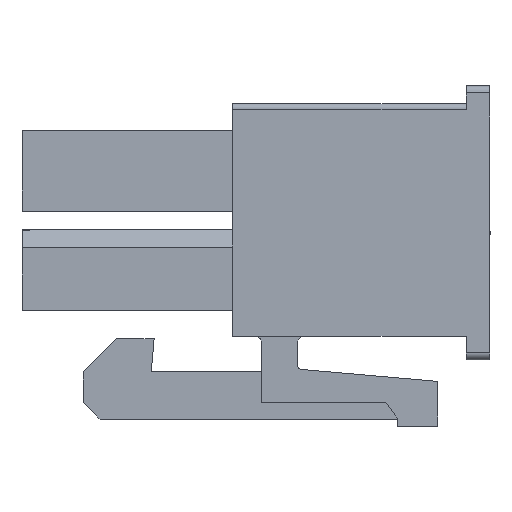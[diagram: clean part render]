
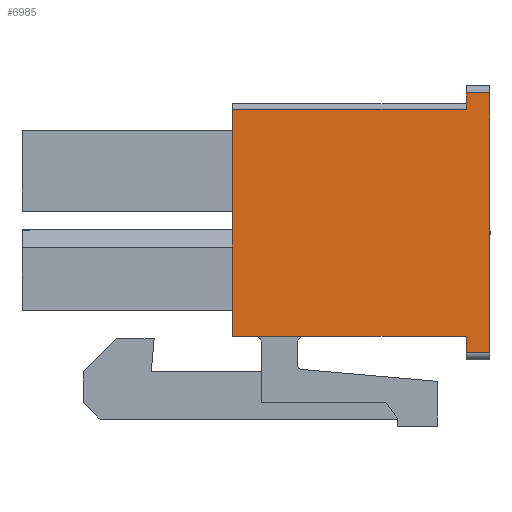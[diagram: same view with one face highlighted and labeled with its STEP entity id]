
A CAD part, left-side view. The second image highlights one B-rep face of the part: STEP entity #6985.
In plain terms, the highlighted planar face has unit normal (-1, 0, 0).
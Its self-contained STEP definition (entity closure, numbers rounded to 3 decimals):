
#104 = CARTESIAN_POINT ( 'NONE',  ( -4.9, 0.2, -4.8 ) ) ;
#144 = LINE ( 'NONE', #104, #5142 ) ;
#261 = EDGE_CURVE ( 'NONE', #3153, #1232, #993, .T. ) ;
#283 = ORIENTED_EDGE ( 'NONE', *, *, #2869, .T. ) ;
#316 = LINE ( 'NONE', #6528, #3992 ) ;
#368 = LINE ( 'NONE', #3237, #6928 ) ;
#449 = VECTOR ( 'NONE', #3507, 1000. ) ;
#887 = EDGE_CURVE ( 'NONE', #5925, #7079, #316, .T. ) ;
#993 = LINE ( 'NONE', #2170, #2641 ) ;
#1087 = DIRECTION ( 'NONE',  ( -1., 0., 0. ) ) ;
#1232 = VERTEX_POINT ( 'NONE', #5747 ) ;
#1487 = DIRECTION ( 'NONE',  ( 0., -1., 0. ) ) ;
#1573 = CARTESIAN_POINT ( 'NONE',  ( -4.9, -9.7, 5.5 ) ) ;
#1613 = DIRECTION ( 'NONE',  ( 0., 1., 0. ) ) ;
#1727 = LINE ( 'NONE', #3546, #449 ) ;
#1872 = ORIENTED_EDGE ( 'NONE', *, *, #2891, .T. ) ;
#1986 = CARTESIAN_POINT ( 'NONE',  ( -4.9, -9.7, -5.8 ) ) ;
#2039 = ORIENTED_EDGE ( 'NONE', *, *, #261, .T. ) ;
#2170 = CARTESIAN_POINT ( 'NONE',  ( -4.9, -10.7, -5.5 ) ) ;
#2264 = CARTESIAN_POINT ( 'NONE',  ( -4.9, 0.2, -4.8 ) ) ;
#2389 = CARTESIAN_POINT ( 'NONE',  ( -4.9, -10.7, 5.5 ) ) ;
#2398 = CARTESIAN_POINT ( 'NONE',  ( -4.9, -10.7, -5.8 ) ) ;
#2567 = CARTESIAN_POINT ( 'NONE',  ( -4.9, 0.2, 4.8 ) ) ;
#2641 = VECTOR ( 'NONE', #5514, 1000. ) ;
#2753 = CARTESIAN_POINT ( 'NONE',  ( -4.9, -9.7, -5.5 ) ) ;
#2767 = EDGE_CURVE ( 'NONE', #6786, #6874, #4862, .T. ) ;
#2788 = DIRECTION ( 'NONE',  ( 0., 0., -1. ) ) ;
#2869 = EDGE_CURVE ( 'NONE', #3296, #3147, #1727, .T. ) ;
#2891 = EDGE_CURVE ( 'NONE', #1232, #3296, #6334, .T. ) ;
#2942 = EDGE_CURVE ( 'NONE', #7079, #3153, #4130, .T. ) ;
#3018 = CARTESIAN_POINT ( 'NONE',  ( -4.9, -9.7, 4.8 ) ) ;
#3147 = VERTEX_POINT ( 'NONE', #1573 ) ;
#3153 = VERTEX_POINT ( 'NONE', #2753 ) ;
#3229 = FACE_OUTER_BOUND ( 'NONE', #6890, .T. ) ;
#3237 = CARTESIAN_POINT ( 'NONE',  ( -4.9, -9.7, 4.8 ) ) ;
#3243 = EDGE_CURVE ( 'NONE', #6874, #5925, #144, .T. ) ;
#3264 = ORIENTED_EDGE ( 'NONE', *, *, #2767, .T. ) ;
#3296 = VERTEX_POINT ( 'NONE', #2389 ) ;
#3437 = DIRECTION ( 'NONE',  ( 0., 0., 1. ) ) ;
#3507 = DIRECTION ( 'NONE',  ( 0., 1., 0. ) ) ;
#3525 = CARTESIAN_POINT ( 'NONE',  ( -4.9, -9.7, -4.8 ) ) ;
#3546 = CARTESIAN_POINT ( 'NONE',  ( -4.9, -10.7, 5.5 ) ) ;
#3992 = VECTOR ( 'NONE', #1487, 1000. ) ;
#4130 = LINE ( 'NONE', #1986, #4792 ) ;
#4332 = DIRECTION ( 'NONE',  ( 0., 0., -1. ) ) ;
#4432 = CARTESIAN_POINT ( 'NONE',  ( -4.9, -10.7, 5.8 ) ) ;
#4792 = VECTOR ( 'NONE', #5255, 1000. ) ;
#4862 = LINE ( 'NONE', #7113, #5491 ) ;
#5142 = VECTOR ( 'NONE', #2788, 1000. ) ;
#5255 = DIRECTION ( 'NONE',  ( 0., 0., -1. ) ) ;
#5365 = EDGE_CURVE ( 'NONE', #3147, #6786, #368, .T. ) ;
#5478 = ORIENTED_EDGE ( 'NONE', *, *, #3243, .T. ) ;
#5491 = VECTOR ( 'NONE', #1613, 1000. ) ;
#5514 = DIRECTION ( 'NONE',  ( 0., -1., 0. ) ) ;
#5571 = DIRECTION ( 'NONE',  ( 0., 1., 0. ) ) ;
#5613 = VECTOR ( 'NONE', #3437, 1000. ) ;
#5747 = CARTESIAN_POINT ( 'NONE',  ( -4.9, -10.7, -5.5 ) ) ;
#5893 = ORIENTED_EDGE ( 'NONE', *, *, #5365, .T. ) ;
#5925 = VERTEX_POINT ( 'NONE', #2264 ) ;
#6240 = ORIENTED_EDGE ( 'NONE', *, *, #2942, .T. ) ;
#6286 = ORIENTED_EDGE ( 'NONE', *, *, #887, .T. ) ;
#6334 = LINE ( 'NONE', #2398, #5613 ) ;
#6528 = CARTESIAN_POINT ( 'NONE',  ( -4.9, 0.2, -4.8 ) ) ;
#6786 = VERTEX_POINT ( 'NONE', #3018 ) ;
#6874 = VERTEX_POINT ( 'NONE', #2567 ) ;
#6890 = EDGE_LOOP ( 'NONE', ( #6240, #2039, #1872, #283, #5893, #3264, #5478, #6286 ) ) ;
#6928 = VECTOR ( 'NONE', #4332, 1000. ) ;
#6985 = ADVANCED_FACE ( 'NONE', ( #3229 ), #7199, .T. ) ;
#7079 = VERTEX_POINT ( 'NONE', #3525 ) ;
#7113 = CARTESIAN_POINT ( 'NONE',  ( -4.9, 0.2, 4.8 ) ) ;
#7163 = AXIS2_PLACEMENT_3D ( 'NONE', #4432, #1087, #5571 ) ;
#7199 = PLANE ( 'NONE',  #7163 ) ;
